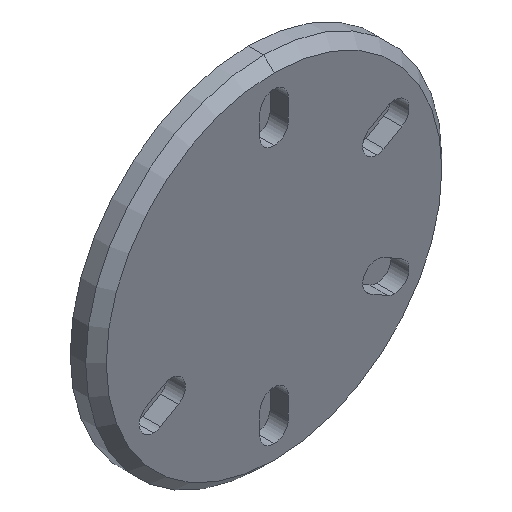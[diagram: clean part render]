
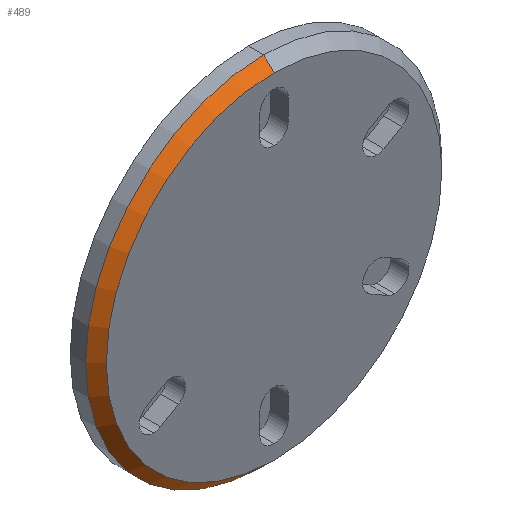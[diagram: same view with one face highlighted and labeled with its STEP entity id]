
A CAD part, isometric view. The second image highlights one B-rep face of the part: STEP entity #489.
In plain terms, the highlighted conical face has half-angle 45 degrees and reference radius 34.5 mm.
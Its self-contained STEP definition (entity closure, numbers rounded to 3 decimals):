
#36 = CARTESIAN_POINT ( 'NONE',  ( 0., -5., 32.5 ) ) ;
#59 = CARTESIAN_POINT ( 'NONE',  ( 0., -3., -34.5 ) ) ;
#76 = VECTOR ( 'NONE', #1045, 1000. ) ;
#92 = VERTEX_POINT ( 'NONE', #453 ) ;
#144 = CARTESIAN_POINT ( 'NONE',  ( 0., -3., -34.5 ) ) ;
#146 = AXIS2_PLACEMENT_3D ( 'NONE', #792, #267, #351 ) ;
#149 = CIRCLE ( 'NONE', #146, 32.5 ) ;
#164 = DIRECTION ( 'NONE',  ( 0., 0., 1. ) ) ;
#247 = EDGE_CURVE ( 'NONE', #390, #365, #1004, .T. ) ;
#249 = LINE ( 'NONE', #303, #76 ) ;
#252 = AXIS2_PLACEMENT_3D ( 'NONE', #432, #1166, #428 ) ;
#267 = DIRECTION ( 'NONE',  ( 0., -1., 0. ) ) ;
#282 = EDGE_LOOP ( 'NONE', ( #1071, #306, #1003, #608 ) ) ;
#303 = CARTESIAN_POINT ( 'NONE',  ( 0., -3., 34.5 ) ) ;
#306 = ORIENTED_EDGE ( 'NONE', *, *, #1029, .F. ) ;
#328 = DIRECTION ( 'NONE',  ( 0., 1., 0. ) ) ;
#351 = DIRECTION ( 'NONE',  ( 0., 0., 1. ) ) ;
#360 = EDGE_CURVE ( 'NONE', #365, #92, #1154, .T. ) ;
#365 = VERTEX_POINT ( 'NONE', #59 ) ;
#390 = VERTEX_POINT ( 'NONE', #943 ) ;
#409 = DIRECTION ( 'NONE',  ( 0., 0.707, -0.707 ) ) ;
#420 = AXIS2_PLACEMENT_3D ( 'NONE', #677, #328, #164 ) ;
#428 = DIRECTION ( 'NONE',  ( 0., 0., 1. ) ) ;
#432 = CARTESIAN_POINT ( 'NONE',  ( 0., -3., 0. ) ) ;
#453 = CARTESIAN_POINT ( 'NONE',  ( 0., -3., 34.5 ) ) ;
#489 = ADVANCED_FACE ( 'NONE', ( #892 ), #724, .T. ) ;
#528 = VECTOR ( 'NONE', #409, 1000. ) ;
#608 = ORIENTED_EDGE ( 'NONE', *, *, #360, .F. ) ;
#677 = CARTESIAN_POINT ( 'NONE',  ( 0., -3., 0. ) ) ;
#680 = VERTEX_POINT ( 'NONE', #36 ) ;
#724 = CONICAL_SURFACE ( 'NONE', #252, 34.5, 0.785 ) ;
#789 = EDGE_CURVE ( 'NONE', #680, #92, #249, .T. ) ;
#792 = CARTESIAN_POINT ( 'NONE',  ( 0., -5., 0. ) ) ;
#892 = FACE_OUTER_BOUND ( 'NONE', #282, .T. ) ;
#943 = CARTESIAN_POINT ( 'NONE',  ( 0., -5., -32.5 ) ) ;
#1003 = ORIENTED_EDGE ( 'NONE', *, *, #789, .T. ) ;
#1004 = LINE ( 'NONE', #144, #528 ) ;
#1029 = EDGE_CURVE ( 'NONE', #680, #390, #149, .T. ) ;
#1045 = DIRECTION ( 'NONE',  ( 0., 0.707, 0.707 ) ) ;
#1071 = ORIENTED_EDGE ( 'NONE', *, *, #247, .F. ) ;
#1154 = CIRCLE ( 'NONE', #420, 34.5 ) ;
#1166 = DIRECTION ( 'NONE',  ( 0., 1., 0. ) ) ;
